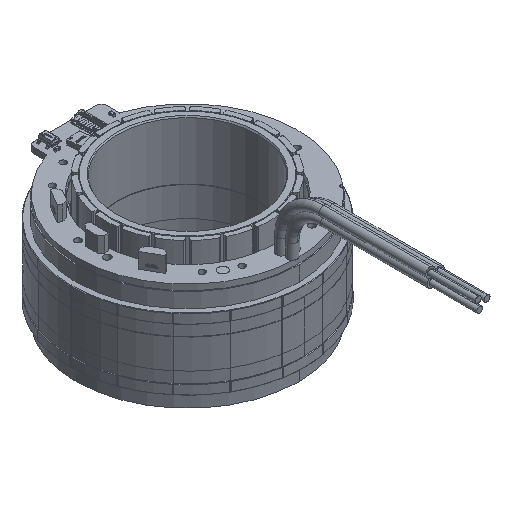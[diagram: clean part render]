
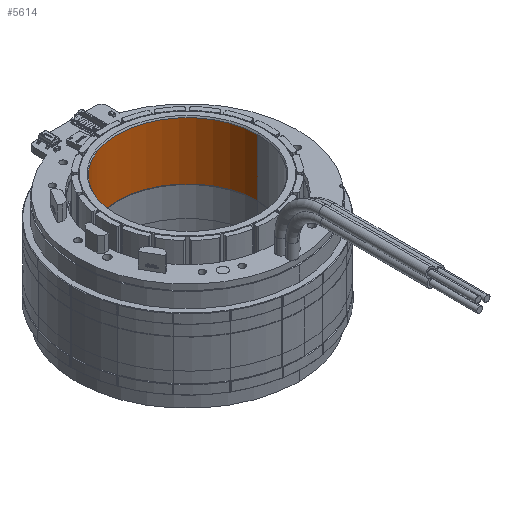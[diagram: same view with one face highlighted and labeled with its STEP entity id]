
A CAD part, isometric view. The second image highlights one B-rep face of the part: STEP entity #5614.
In plain terms, the highlighted cylindrical face has radius 15 mm (diameter 30 mm), a partial arc.
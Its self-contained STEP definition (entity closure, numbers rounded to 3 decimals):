
#3111 = CARTESIAN_POINT ( 'NONE',  ( 0., 0., 15.45 ) ) ;
#5614 = ADVANCED_FACE ( 'NONE', ( #80165 ), #139670, .F. ) ;
#6433 = DIRECTION ( 'NONE',  ( -1., 0., 0. ) ) ;
#9645 = LINE ( 'NONE', #32706, #72973 ) ;
#19199 = EDGE_CURVE ( 'NONE', #59425, #50069, #91350, .T. ) ;
#26846 = EDGE_CURVE ( 'NONE', #50069, #123949, #94856, .T. ) ;
#28520 = CARTESIAN_POINT ( 'NONE',  ( 15., 0., 15.45 ) ) ;
#30572 = AXIS2_PLACEMENT_3D ( 'NONE', #3111, #74490, #51490 ) ;
#31594 = EDGE_CURVE ( 'NONE', #108568, #123949, #111761, .T. ) ;
#32706 = CARTESIAN_POINT ( 'NONE',  ( 15., 0., 15.75 ) ) ;
#36654 = EDGE_CURVE ( 'NONE', #59425, #108568, #9645, .T. ) ;
#41919 = CARTESIAN_POINT ( 'NONE',  ( -15., 0., 15.45 ) ) ;
#46400 = CARTESIAN_POINT ( 'NONE',  ( 15., 0., 3.1 ) ) ;
#49148 = DIRECTION ( 'NONE',  ( 0., 0., 1. ) ) ;
#50069 = VERTEX_POINT ( 'NONE', #41919 ) ;
#51490 = DIRECTION ( 'NONE',  ( 1., 0., 0. ) ) ;
#59425 = VERTEX_POINT ( 'NONE', #28520 ) ;
#70120 = ORIENTED_EDGE ( 'NONE', *, *, #36654, .F. ) ;
#71654 = ORIENTED_EDGE ( 'NONE', *, *, #19199, .T. ) ;
#71833 = DIRECTION ( 'NONE',  ( 0., 0., -1. ) ) ;
#72973 = VECTOR ( 'NONE', #153985, 1000. ) ;
#74490 = DIRECTION ( 'NONE',  ( 0., 0., 1. ) ) ;
#80165 = FACE_OUTER_BOUND ( 'NONE', #100886, .T. ) ;
#90514 = DIRECTION ( 'NONE',  ( 0., 0., -1. ) ) ;
#90985 = VECTOR ( 'NONE', #71833, 1000. ) ;
#91350 = CIRCLE ( 'NONE', #30572, 15. ) ;
#91895 = AXIS2_PLACEMENT_3D ( 'NONE', #107811, #49148, #95151 ) ;
#94856 = LINE ( 'NONE', #120162, #90985 ) ;
#95151 = DIRECTION ( 'NONE',  ( 1., 0., 0. ) ) ;
#100886 = EDGE_LOOP ( 'NONE', ( #70120, #71654, #116617, #114924 ) ) ;
#107811 = CARTESIAN_POINT ( 'NONE',  ( 0., 0., 3.1 ) ) ;
#108568 = VERTEX_POINT ( 'NONE', #46400 ) ;
#111120 = AXIS2_PLACEMENT_3D ( 'NONE', #152328, #90514, #6433 ) ;
#111761 = CIRCLE ( 'NONE', #91895, 15. ) ;
#114924 = ORIENTED_EDGE ( 'NONE', *, *, #31594, .F. ) ;
#116617 = ORIENTED_EDGE ( 'NONE', *, *, #26846, .T. ) ;
#120162 = CARTESIAN_POINT ( 'NONE',  ( -15., 0., 15.75 ) ) ;
#123949 = VERTEX_POINT ( 'NONE', #151968 ) ;
#139670 = CYLINDRICAL_SURFACE ( 'NONE', #111120, 15. ) ;
#151968 = CARTESIAN_POINT ( 'NONE',  ( -15., 0., 3.1 ) ) ;
#152328 = CARTESIAN_POINT ( 'NONE',  ( 0., 0., 15.75 ) ) ;
#153985 = DIRECTION ( 'NONE',  ( 0., 0., -1. ) ) ;
